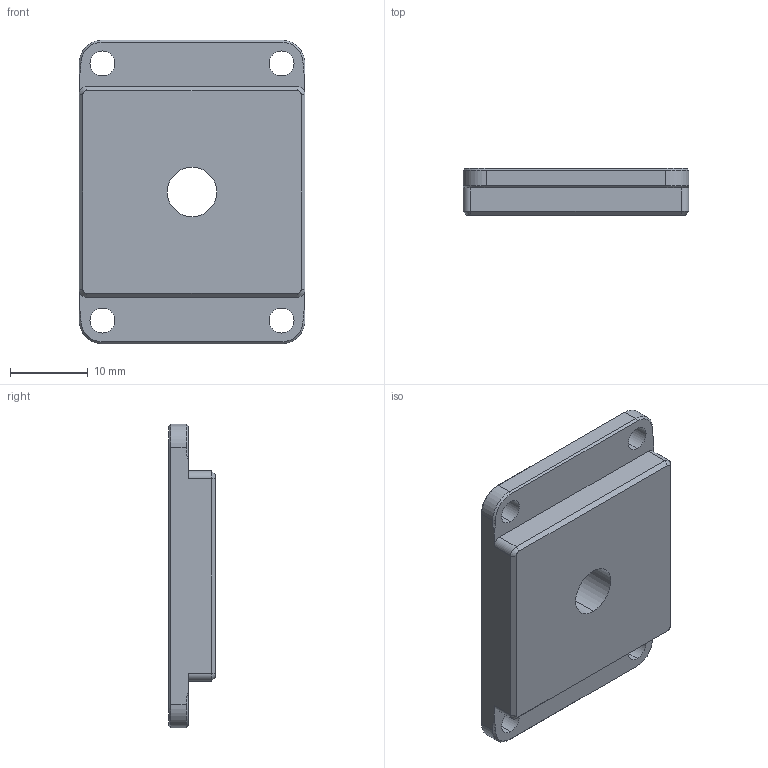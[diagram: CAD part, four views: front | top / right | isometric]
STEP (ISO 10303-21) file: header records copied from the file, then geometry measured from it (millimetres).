
FILE_DESCRIPTION (( 'STEP AP203' ), '1' );
FILE_NAME ('12-02709-00000_R0.STEP', '2018-09-13T17:25:42', ( '' ), ( '' ), 'SwSTEP 2.0', 'SolidWorks 2017', '' );
FILE_SCHEMA (( 'CONFIG_CONTROL_DESIGN' ));
Length unit declared in the file: millimetre
Products named in the file (1): 12-02709-00000_R0
Bounding box: 29 x 6 x 39 mm (x, y, z)
Volume: 5255.4 mm3; surface area: 2990.1 mm2
Topology: 1 solids, 1 shells, 58 faces, 144 edges, 88 vertices
Faces by surface type: plane 24, cylinder 18, cone 16
Entity records: 1817 total; most frequent: CARTESIAN_POINT 311, DIRECTION 310, ORIENTED_EDGE 288, EDGE_CURVE 144, AXIS2_PLACEMENT_3D 111, LINE 88, VECTOR 88, VERTEX_POINT 88
